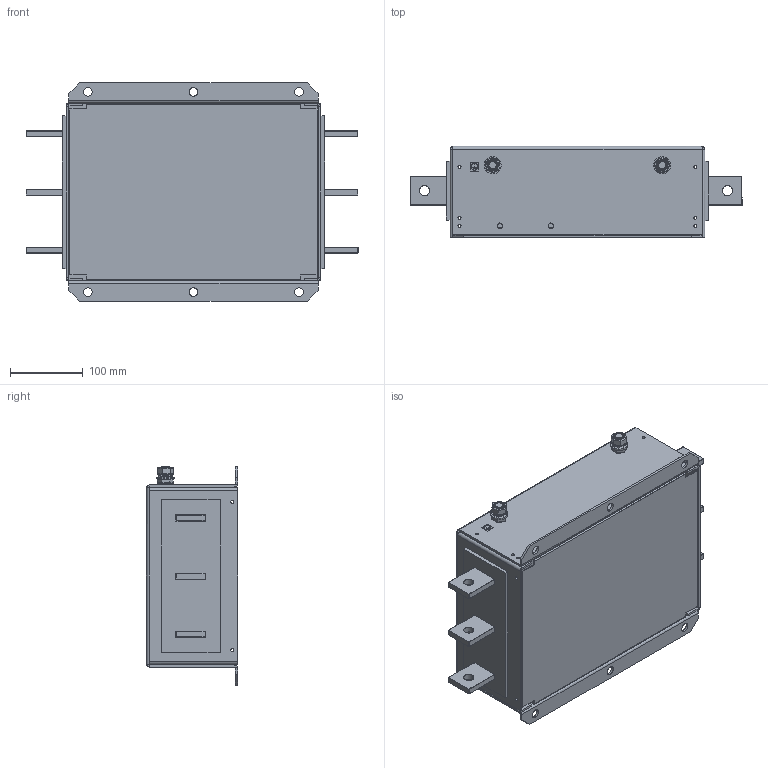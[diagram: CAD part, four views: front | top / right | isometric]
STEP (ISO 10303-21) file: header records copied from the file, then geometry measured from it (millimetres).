
FILE_DESCRIPTION (( 'STEP AP214' ), '1' );
FILE_NAME ('KMF3820.STEP', '2015-01-20T16:42:32', ( '' ), ( '' ), 'SwSTEP 2.0', 'SolidWorks 2014', '' );
FILE_SCHEMA (( 'AUTOMOTIVE_DESIGN' ));
Length unit declared in the file: millimetre
Products named in the file (19): WSH173; NUT122; NUT123; WSH167; box578; BOX579; PEM BSO-M4-12 ZI--S_PEM BSO-M4-12 ZI--S; SCR229_SCR229; KMF3820; LBL47; COP431; HSKCOP432_side 1; HSKCOP431; WSH148; COP432; COP433; HSKCOP432_side 2; GRO033
Assembly tree (24 placements, depth 2):
  KMF3820
    SCR229_SCR229  x2
    PEM BSO-M4-12 ZI--S_PEM BSO-M4-12 ZI--S  x4
    BOX579
    box578
    WSH167  x2
    WSH173  x2
    NUT122  x2
    NUT123  x2
    GRO033
    GRO033
    COP433
    COP432
    COP431
    LBL47
    WSH148  x2
  HSKCOP432_side 1
  HSKCOP431
  HSKCOP432_side 2
Bounding box: 456 x 125 x 300 mm (x, y, z)
Volume: 1274341.4 mm3; surface area: 788559.1 mm2
Topology: 28 solids, 28 shells, 1465 faces, 3617 edges, 2196 vertices
Faces by surface type: plane 563, cylinder 534, cone 304, torus 28, sphere 24, bspline 12
Entity records: 28363 total; most frequent: CARTESIAN_POINT 6153, DIRECTION 4552, ORIENTED_EDGE 4358, EDGE_CURVE 2179, AXIS2_PLACEMENT_3D 1632, VERTEX_POINT 1342, VECTOR 1288, LINE 1288
